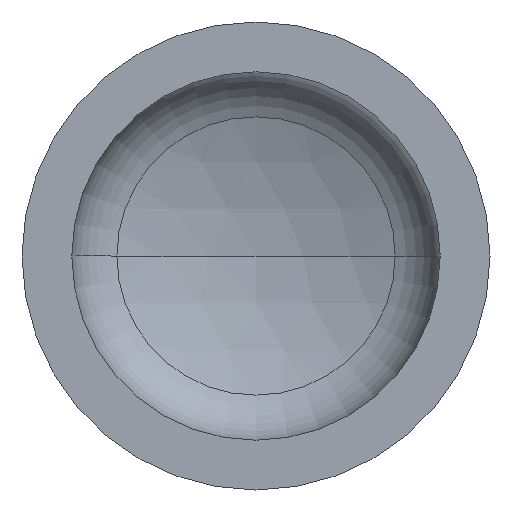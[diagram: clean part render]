
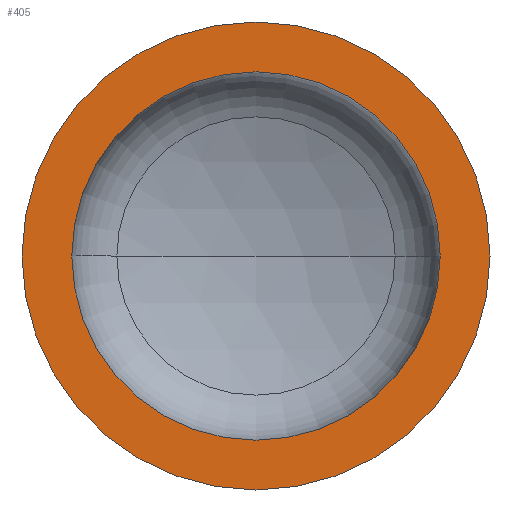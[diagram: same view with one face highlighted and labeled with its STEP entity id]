
A CAD part, front view. The second image highlights one B-rep face of the part: STEP entity #405.
In plain terms, the highlighted planar face has unit normal (0, -1, 0).
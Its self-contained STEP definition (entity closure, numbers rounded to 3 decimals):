
#8 = AXIS2_PLACEMENT_3D ( 'NONE', #205, #317, #143 ) ;
#10 = AXIS2_PLACEMENT_3D ( 'NONE', #292, #116, #326 ) ;
#12 = FACE_OUTER_BOUND ( 'NONE', #159, .T. ) ;
#45 = CIRCLE ( 'NONE', #10, 254. ) ;
#63 = CARTESIAN_POINT ( 'NONE',  ( -254., 0., 0. ) ) ;
#71 = AXIS2_PLACEMENT_3D ( 'NONE', #362, #269, #268 ) ;
#73 = AXIS2_PLACEMENT_3D ( 'NONE', #332, #324, #321 ) ;
#92 = VERTEX_POINT ( 'NONE', #304 ) ;
#101 = EDGE_CURVE ( 'NONE', #187, #233, #349, .T. ) ;
#102 = EDGE_CURVE ( 'NONE', #262, #92, #208, .T. ) ;
#112 = ORIENTED_EDGE ( 'NONE', *, *, #372, .T. ) ;
#116 = DIRECTION ( 'NONE',  ( 0., -1., 0. ) ) ;
#118 = FACE_BOUND ( 'NONE', #342, .T. ) ;
#128 = CIRCLE ( 'NONE', #8, 200. ) ;
#138 = ORIENTED_EDGE ( 'NONE', *, *, #101, .T. ) ;
#141 = DIRECTION ( 'NONE',  ( 0., 1., 0. ) ) ;
#143 = DIRECTION ( 'NONE',  ( 1., 0., 0. ) ) ;
#159 = EDGE_LOOP ( 'NONE', ( #112, #138 ) ) ;
#178 = CARTESIAN_POINT ( 'NONE',  ( 254., 0., 0. ) ) ;
#187 = VERTEX_POINT ( 'NONE', #63 ) ;
#205 = CARTESIAN_POINT ( 'NONE',  ( 0., 0., 0. ) ) ;
#208 = CIRCLE ( 'NONE', #71, 200. ) ;
#233 = VERTEX_POINT ( 'NONE', #178 ) ;
#240 = CARTESIAN_POINT ( 'NONE',  ( 200., 0., 0. ) ) ;
#262 = VERTEX_POINT ( 'NONE', #240 ) ;
#268 = DIRECTION ( 'NONE',  ( 1., 0., 0. ) ) ;
#269 = DIRECTION ( 'NONE',  ( 0., -1., 0. ) ) ;
#292 = CARTESIAN_POINT ( 'NONE',  ( 0., 0., 0. ) ) ;
#304 = CARTESIAN_POINT ( 'NONE',  ( -200., 0., 0. ) ) ;
#317 = DIRECTION ( 'NONE',  ( 0., -1., 0. ) ) ;
#321 = DIRECTION ( 'NONE',  ( 1., 0., 0. ) ) ;
#324 = DIRECTION ( 'NONE',  ( 0., -1., 0. ) ) ;
#326 = DIRECTION ( 'NONE',  ( 1., 0., 0. ) ) ;
#332 = CARTESIAN_POINT ( 'NONE',  ( 0., 0., 0. ) ) ;
#333 = ORIENTED_EDGE ( 'NONE', *, *, #102, .F. ) ;
#342 = EDGE_LOOP ( 'NONE', ( #333, #393 ) ) ;
#343 = DIRECTION ( 'NONE',  ( -1., 0., 0. ) ) ;
#345 = PLANE ( 'NONE',  #384 ) ;
#349 = CIRCLE ( 'NONE', #73, 254. ) ;
#362 = CARTESIAN_POINT ( 'NONE',  ( 0., 0., 0. ) ) ;
#372 = EDGE_CURVE ( 'NONE', #233, #187, #45, .T. ) ;
#376 = CARTESIAN_POINT ( 'NONE',  ( -254., 0., 0. ) ) ;
#384 = AXIS2_PLACEMENT_3D ( 'NONE', #376, #141, #343 ) ;
#390 = EDGE_CURVE ( 'NONE', #92, #262, #128, .T. ) ;
#393 = ORIENTED_EDGE ( 'NONE', *, *, #390, .F. ) ;
#405 = ADVANCED_FACE ( 'NONE', ( #118, #12 ), #345, .F. ) ;
